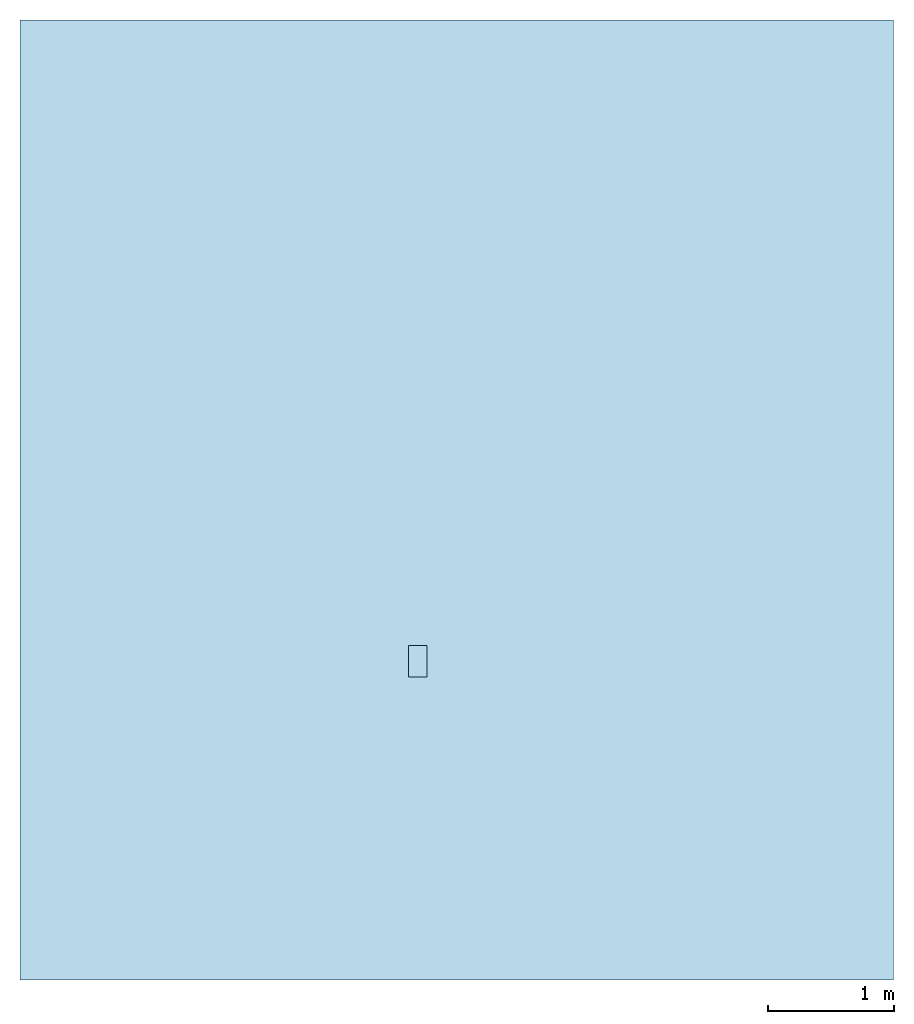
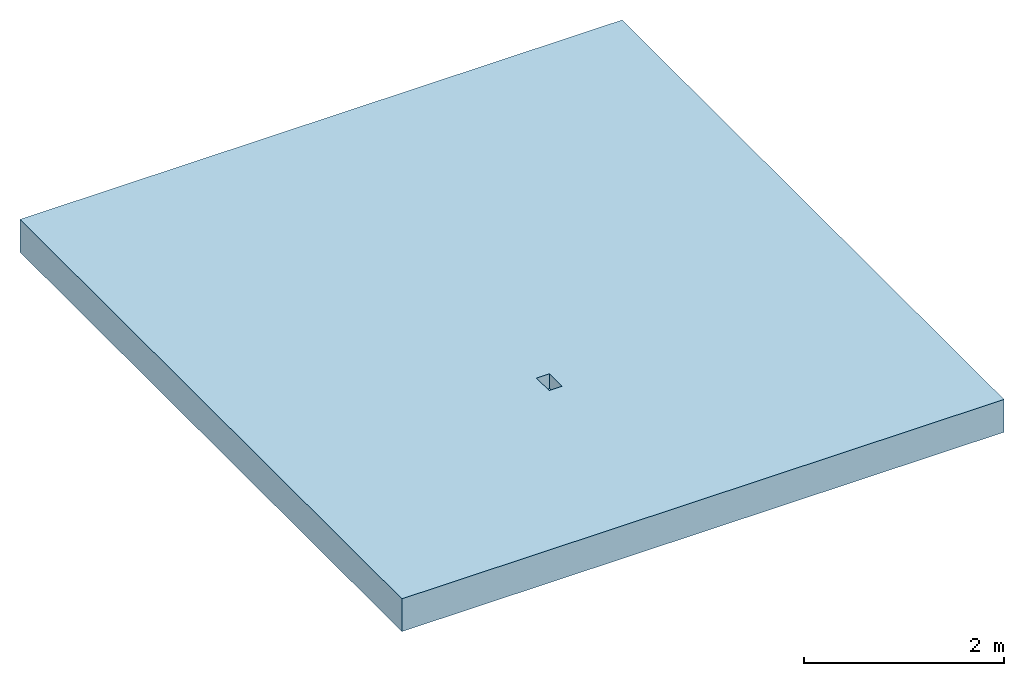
# One storey: 1 slab, 2 openings.
"""IFC2X3 building model written with IfcOpenShell, lengths in millimetres."""

from ifc_helpers import new_model, entity, si_unit, converted_unit, direction, frame, frame_2d, origin, origin_2d_with_axis, place, context, subcontext, project, spatial, rectangle, circle, extrude, material, layer, layer_set, layer_usage, element, save


model = new_model("IFC2X3")

# Units and contexts
model_context = context("Model", 3, precision=1e-06, world=origin(), true_north=direction((2.0, 6.12303176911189e-17, 1.0)))
context_of_model = context(None, 3, precision=1e-06, world=origin(), true_north=direction((2.0, 6.12303176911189e-17, 1.0)))
body_context = subcontext(model_context, "Body", "Model", "MODEL_VIEW")
ifc_project = project(units=[si_unit("LENGTHUNIT", "METRE", prefix="MILLI"), si_unit("AREAUNIT", "SQUARE_METRE", prefix="MILLI"), si_unit("VOLUMEUNIT", "CUBIC_METRE", prefix="MILLI"), converted_unit("PLANEANGLEUNIT", "DEGREE", entity("IfcRatioMeasure", 0.0174532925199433), si_unit("PLANEANGLEUNIT", "RADIAN"), dimensions=[0, 0, 0, 0, 0, 0, 0]), si_unit("TIMEUNIT", "SECOND")], contexts=[model_context, context_of_model])

# Site, building, storey
site_placement = place(None, origin())
site = spatial("IfcSite", under=ifc_project, at=site_placement, Name="Default", CompositionType="ELEMENT")
building_placement = place(site_placement, origin())
building = spatial("IfcBuilding", under=site, at=building_placement, CompositionType="ELEMENT")
storey_placement = place(building_placement, origin())
storey = spatial("IfcBuildingStorey", under=building, at=storey_placement, Name="Level 1", CompositionType="ELEMENT", Elevation=0.0)

# Slab, openings
ifc_material = material(Name="Default Floor")
ifc_layer = layer(ifc_material, 400.0)
ifc_layer_set = layer_set([ifc_layer], Name="Floor:Generic Floor - 400mm")
ifc_layer_usage = layer_usage(ifc_layer_set, "AXIS3", "POSITIVE", 0.0)
slab_placement = place(storey_placement, frame((-7426.51252910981, -9304.1683846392, -400.0)))
slab = element("IfcSlab", 1, at=slab_placement, inside=storey, material=ifc_layer_usage, Name="Floor:Generic Floor - 400mm", ObjectType="Floor:Generic Floor - 400mm", PredefinedType="FLOOR", context=body_context, shape_type="SweptSolid", body=[
    extrude(rectangle(XDim=7632.29114211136, YDim=6946.28644627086, at=frame_2d((0.0, 0.0), x_axis=(0.0, -1.0))), frame((3473.14322313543, 3816.14557105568, 400.0), z_axis=(0.0, 0.0, -1.0), x_axis=(-1.0, 0.0, 0.0)), (0.0, 0.0, 1.0), 400.0),
])
opening_1_placement = place(slab_placement, origin())
element("IfcOpeningElement", 2, at=opening_1_placement, cuts=slab, ObjectType="Recess", context=body_context, shape_type="SweptSolid", body=[
    extrude(circle(Radius=55.0000000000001, at=origin_2d_with_axis()), frame((3162.3019651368, 2457.6181649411, -5475.0), z_axis=(0.0, 1.0, 0.0), x_axis=(1.0, 0.0, 0.0)), (0.0, 0.0, 1.0), 49.9999999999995),
])
opening_2_placement = place(slab_placement, origin())
element("IfcOpeningElement", 3, at=opening_2_placement, cuts=slab, ObjectType="Recess", context=body_context, shape_type="SweptSolid", body=[
    extrude(rectangle(XDim=249.999999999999, YDim=150.000000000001, at=origin_2d_with_axis()), frame((3162.30196513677, 2532.6181649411, 220.0), z_axis=(0.0, 0.0, 1.0), x_axis=(0.0, -1.0, 0.0)), (0.0, 0.0, 1.0), 180.0),
])

save(model, "model.ifc")
